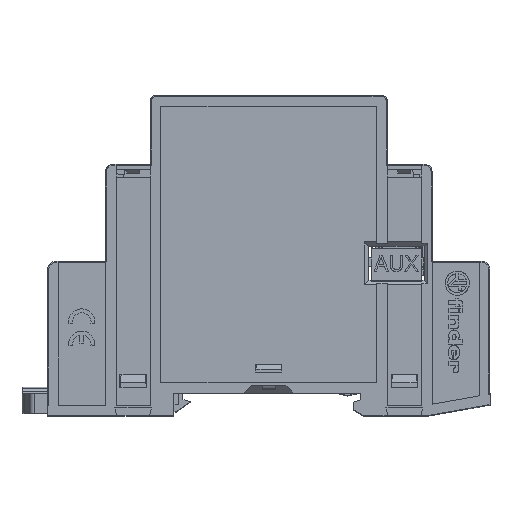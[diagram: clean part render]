
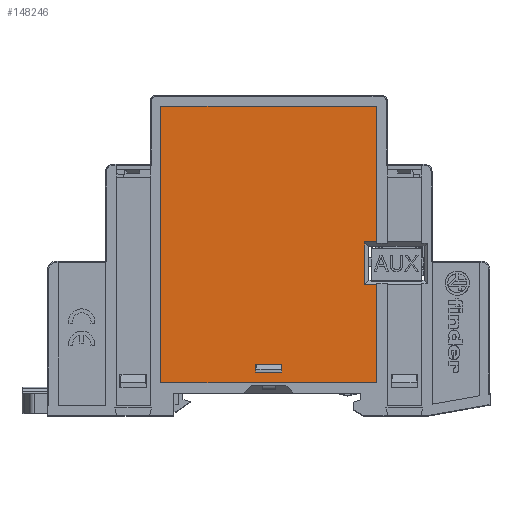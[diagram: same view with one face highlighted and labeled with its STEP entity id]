
A CAD part, top view. The second image highlights one B-rep face of the part: STEP entity #148246.
In plain terms, the highlighted planar face has unit normal (0, 0, 1).
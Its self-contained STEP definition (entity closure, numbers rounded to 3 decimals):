
#20727=ORIENTED_EDGE('',*,*,#42144,.F.);
#20728=ORIENTED_EDGE('',*,*,#42427,.F.);
#20729=ORIENTED_EDGE('',*,*,#42425,.F.);
#20730=ORIENTED_EDGE('',*,*,#42423,.T.);
#20731=ORIENTED_EDGE('',*,*,#42421,.F.);
#20732=ORIENTED_EDGE('',*,*,#42419,.F.);
#20733=ORIENTED_EDGE('',*,*,#42315,.F.);
#20734=ORIENTED_EDGE('',*,*,#41805,.F.);
#20735=ORIENTED_EDGE('',*,*,#43969,.T.);
#20736=ORIENTED_EDGE('',*,*,#43970,.F.);
#20737=ORIENTED_EDGE('',*,*,#43971,.F.);
#20738=ORIENTED_EDGE('',*,*,#43972,.F.);
#41805=EDGE_CURVE('',#55328,#55329,#66453,.T.);
#42144=EDGE_CURVE('',#55540,#55328,#66788,.T.);
#42315=EDGE_CURVE('',#55329,#55657,#66906,.T.);
#42419=EDGE_CURVE('',#55657,#55718,#66989,.T.);
#42421=EDGE_CURVE('',#55718,#55719,#66991,.T.);
#42423=EDGE_CURVE('',#55720,#55719,#66993,.T.);
#42425=EDGE_CURVE('',#55720,#55721,#66995,.T.);
#42427=EDGE_CURVE('',#55721,#55540,#66997,.T.);
#43969=EDGE_CURVE('',#56790,#56791,#68350,.T.);
#43970=EDGE_CURVE('',#56792,#56791,#68351,.T.);
#43971=EDGE_CURVE('',#56793,#56792,#68352,.T.);
#43972=EDGE_CURVE('',#56790,#56793,#68353,.T.);
#55328=VERTEX_POINT('',#201626);
#55329=VERTEX_POINT('',#201628);
#55540=VERTEX_POINT('',#202329);
#55657=VERTEX_POINT('',#202770);
#55718=VERTEX_POINT('',#202998);
#55719=VERTEX_POINT('',#203002);
#55720=VERTEX_POINT('',#203006);
#55721=VERTEX_POINT('',#203010);
#56790=VERTEX_POINT('',#206767);
#56791=VERTEX_POINT('',#206768);
#56792=VERTEX_POINT('',#206770);
#56793=VERTEX_POINT('',#206772);
#66453=LINE('',#201627,#79582);
#66788=LINE('',#202330,#79917);
#66906=LINE('',#202769,#80035);
#66989=LINE('',#202997,#80118);
#66991=LINE('',#203001,#80120);
#66993=LINE('',#203005,#80122);
#66995=LINE('',#203009,#80124);
#66997=LINE('',#203013,#80126);
#68350=LINE('',#206766,#81479);
#68351=LINE('',#206769,#81480);
#68352=LINE('',#206771,#81481);
#68353=LINE('',#206773,#81482);
#79582=VECTOR('',#170720,1000.);
#79917=VECTOR('',#171351,1000.);
#80035=VECTOR('',#171651,1000.);
#80118=VECTOR('',#171838,1000.);
#80120=VECTOR('',#171842,1000.);
#80122=VECTOR('',#171846,1000.);
#80124=VECTOR('',#171850,1000.);
#80126=VECTOR('',#171854,1000.);
#81479=VECTOR('',#174503,1000.);
#81480=VECTOR('',#174504,1000.);
#81481=VECTOR('',#174505,1000.);
#81482=VECTOR('',#174506,1000.);
#90557=EDGE_LOOP('',(#20727,#20728,#20729,#20730,#20731,#20732,#20733,#20734));
#90558=EDGE_LOOP('',(#20735,#20736,#20737,#20738));
#97154=FACE_BOUND('',#90557,.T.);
#97155=FACE_BOUND('',#90558,.T.);
#102574=PLANE('',#155242);
#148246=ADVANCED_FACE('',(#97154,#97155),#102574,.T.);
#155242=AXIS2_PLACEMENT_3D('',#206765,#174501,#174502);
#170720=DIRECTION('',(0.,-1.,0.));
#171351=DIRECTION('',(-1.,0.,0.));
#171651=DIRECTION('',(1.,0.,0.));
#171838=DIRECTION('',(0.,-1.,0.));
#171842=DIRECTION('',(-1.,0.,0.));
#171846=DIRECTION('',(0.,-1.,0.));
#171850=DIRECTION('',(1.,0.,0.));
#171854=DIRECTION('',(0.,-1.,0.));
#174501=DIRECTION('',(0.,0.,1.));
#174502=DIRECTION('',(1.,0.,0.));
#174503=DIRECTION('',(0.,-1.,0.));
#174504=DIRECTION('',(1.,0.,0.));
#174505=DIRECTION('',(0.,-1.,0.));
#174506=DIRECTION('',(-1.,0.,0.));
#201626=CARTESIAN_POINT('',(18.2,-20.3,0.));
#201627=CARTESIAN_POINT('',(18.2,-47.001,0.));
#201628=CARTESIAN_POINT('',(18.2,-28.4,0.));
#202329=CARTESIAN_POINT('',(20.5,-20.3,0.));
#202330=CARTESIAN_POINT('',(-20.501,-20.3,0.));
#202769=CARTESIAN_POINT('',(-20.501,-28.4,0.));
#202770=CARTESIAN_POINT('',(20.5,-28.4,0.));
#202997=CARTESIAN_POINT('',(20.5,5.5,0.));
#202998=CARTESIAN_POINT('',(20.5,-47.,0.));
#203001=CARTESIAN_POINT('',(20.5,-47.,0.));
#203002=CARTESIAN_POINT('',(-20.5,-47.,0.));
#203005=CARTESIAN_POINT('',(-20.5,5.5,0.));
#203006=CARTESIAN_POINT('',(-20.5,5.5,0.));
#203009=CARTESIAN_POINT('',(-20.5,5.5,0.));
#203010=CARTESIAN_POINT('',(20.5,5.5,0.));
#203013=CARTESIAN_POINT('',(20.5,5.5,0.));
#206765=CARTESIAN_POINT('',(-20.501,-47.001,0.));
#206766=CARTESIAN_POINT('',(2.5,-43.5,0.));
#206767=CARTESIAN_POINT('',(2.5,-43.5,0.));
#206768=CARTESIAN_POINT('',(2.5,-45.,0.));
#206769=CARTESIAN_POINT('',(-2.5,-45.,0.));
#206770=CARTESIAN_POINT('',(-2.5,-45.,0.));
#206771=CARTESIAN_POINT('',(-2.5,-43.5,0.));
#206772=CARTESIAN_POINT('',(-2.5,-43.5,0.));
#206773=CARTESIAN_POINT('',(2.5,-43.5,0.));
